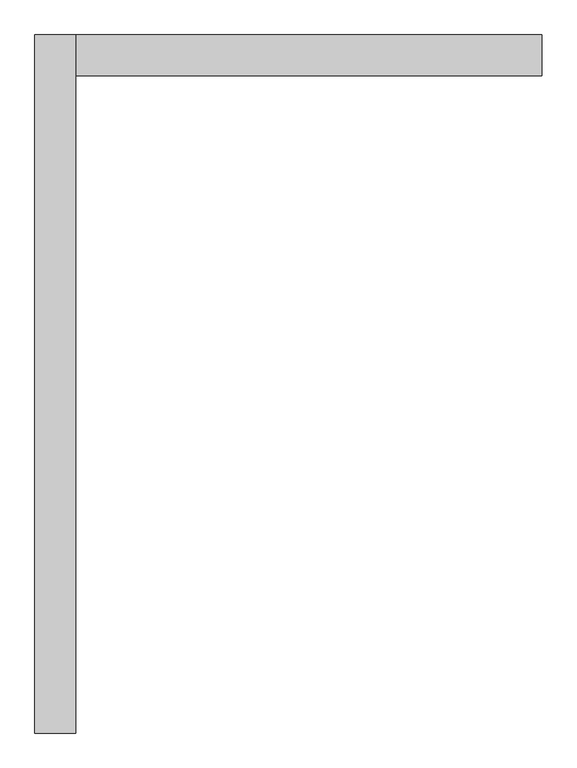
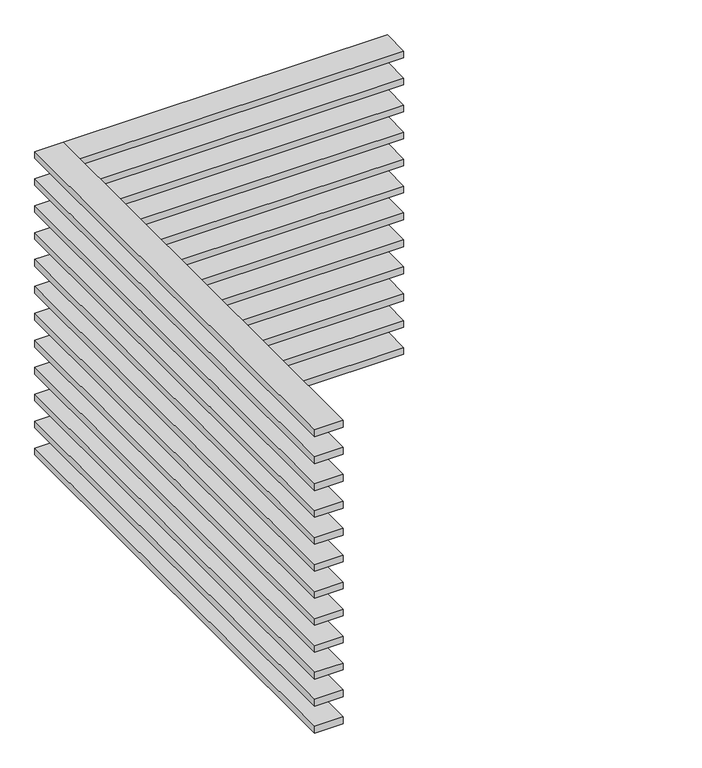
"""IFC4 building model written with IfcOpenShell, lengths in millimetres: proxy geometry, 水平ルーバー（Ｌ型） : ｈ50ｄ200＠200."""

from ifc_helpers import new_model, si_unit, frame, origin, place, context, project, spatial, polyline, outline, extrude, source, transform, mapped, element, save


def generic_models_9d1d942f(model_context):
    return source(origin(), model_context, "Body", "SweptSolid", [
        extrude(outline(polyline([(-100.0, -3405.0), (-300.0, -3405.0), (-300.0, 0.0), (-100.0, 0.0), (-100.0, -3405.0)])), frame((0.0, 0.0, 2175.0), z_axis=(0.0, 0.0, 1.0), x_axis=(1.0, 0.0, 0.0)), (0.0, 0.0, 1.0), 50.0),
        extrude(outline(polyline([(-100.0, -3405.0), (-300.0, -3405.0), (-300.0, 0.0), (-100.0, 0.0), (-100.0, -3405.0)])), frame((0.0, 0.0, 1975.0), z_axis=(0.0, 0.0, 1.0), x_axis=(1.0, 0.0, 0.0)), (0.0, 0.0, 1.0), 50.0),
        extrude(outline(polyline([(-100.0, -3405.0), (-300.0, -3405.0), (-300.0, 0.0), (-100.0, 0.0), (-100.0, -3405.0)])), frame((0.0, 0.0, 1775.0), z_axis=(0.0, 0.0, 1.0), x_axis=(1.0, 0.0, 0.0)), (0.0, 0.0, 1.0), 50.0),
        extrude(outline(polyline([(-100.0, -3405.0), (-300.0, -3405.0), (-300.0, 0.0), (-100.0, 0.0), (-100.0, -3405.0)])), frame((0.0, 0.0, 1575.0), z_axis=(0.0, 0.0, 1.0), x_axis=(1.0, 0.0, 0.0)), (0.0, 0.0, 1.0), 50.0),
        extrude(outline(polyline([(-100.0, -3405.0), (-300.0, -3405.0), (-300.0, 0.0), (-100.0, 0.0), (-100.0, -3405.0)])), frame((0.0, 0.0, 1375.0), z_axis=(0.0, 0.0, 1.0), x_axis=(1.0, 0.0, 0.0)), (0.0, 0.0, 1.0), 50.0),
        extrude(outline(polyline([(-100.0, -3405.0), (-300.0, -3405.0), (-300.0, 0.0), (-100.0, 0.0), (-100.0, -3405.0)])), frame((0.0, 0.0, 1175.0), z_axis=(0.0, 0.0, 1.0), x_axis=(1.0, 0.0, 0.0)), (0.0, 0.0, 1.0), 50.0),
        extrude(outline(polyline([(-100.0, -3405.0), (-300.0, -3405.0), (-300.0, 0.0), (-100.0, 0.0), (-100.0, -3405.0)])), frame((0.0, 0.0, 975.0), z_axis=(0.0, 0.0, 1.0), x_axis=(1.0, 0.0, 0.0)), (0.0, 0.0, 1.0), 50.0),
        extrude(outline(polyline([(-100.0, -3405.0), (-300.0, -3405.0), (-300.0, 0.0), (-100.0, 0.0), (-100.0, -3405.0)])), frame((0.0, 0.0, 775.0), z_axis=(0.0, 0.0, 1.0), x_axis=(1.0, 0.0, 0.0)), (0.0, 0.0, 1.0), 50.0),
        extrude(outline(polyline([(-100.0, -3405.0), (-300.0, -3405.0), (-300.0, 0.0), (-100.0, 0.0), (-100.0, -3405.0)])), frame((0.0, 0.0, 575.0), z_axis=(0.0, 0.0, 1.0), x_axis=(1.0, 0.0, 0.0)), (0.0, 0.0, 1.0), 50.0),
        extrude(outline(polyline([(-100.0, -3405.0), (-300.0, -3405.0), (-300.0, 0.0), (-100.0, 0.0), (-100.0, -3405.0)])), frame((0.0, 0.0, 375.0), z_axis=(0.0, 0.0, 1.0), x_axis=(1.0, 0.0, 0.0)), (0.0, 0.0, 1.0), 50.0),
        extrude(outline(polyline([(-100.0, -3405.0), (-300.0, -3405.0), (-300.0, 0.0), (-100.0, 0.0), (-100.0, -3405.0)])), frame((0.0, 0.0, 175.0), z_axis=(0.0, 0.0, 1.0), x_axis=(1.0, 0.0, 0.0)), (0.0, 0.0, 1.0), 50.0),
        extrude(outline(polyline([(-100.0, -3405.0), (-300.0, -3405.0), (-300.0, 0.0), (-100.0, 0.0), (-100.0, -3405.0)])), frame((0.0, 0.0, -25.0), z_axis=(0.0, 0.0, 1.0), x_axis=(1.0, 0.0, 0.0)), (0.0, 0.0, 1.0), 50.0),
        extrude(outline(polyline([(-100.0, -200.0), (-100.0, 0.0), (2175.0, 0.0), (2175.0, -200.0), (-100.0, -200.0)])), frame((0.0, 0.0, 2175.0), z_axis=(0.0, 0.0, 1.0), x_axis=(1.0, 0.0, 0.0)), (0.0, 0.0, 1.0), 50.0),
        extrude(outline(polyline([(-100.0, -200.0), (-100.0, 0.0), (2175.0, 0.0), (2175.0, -200.0), (-100.0, -200.0)])), frame((0.0, 0.0, 1975.0), z_axis=(0.0, 0.0, 1.0), x_axis=(1.0, 0.0, 0.0)), (0.0, 0.0, 1.0), 50.0),
        extrude(outline(polyline([(-100.0, -200.0), (-100.0, 0.0), (2175.0, 0.0), (2175.0, -200.0), (-100.0, -200.0)])), frame((0.0, 0.0, 1775.0), z_axis=(0.0, 0.0, 1.0), x_axis=(1.0, 0.0, 0.0)), (0.0, 0.0, 1.0), 50.0),
        extrude(outline(polyline([(-100.0, -200.0), (-100.0, 0.0), (2175.0, 0.0), (2175.0, -200.0), (-100.0, -200.0)])), frame((0.0, 0.0, 1575.0), z_axis=(0.0, 0.0, 1.0), x_axis=(1.0, 0.0, 0.0)), (0.0, 0.0, 1.0), 50.0),
        extrude(outline(polyline([(-100.0, -200.0), (-100.0, 0.0), (2175.0, 0.0), (2175.0, -200.0), (-100.0, -200.0)])), frame((0.0, 0.0, 1375.0), z_axis=(0.0, 0.0, 1.0), x_axis=(1.0, 0.0, 0.0)), (0.0, 0.0, 1.0), 50.0),
        extrude(outline(polyline([(-100.0, -200.0), (-100.0, 0.0), (2175.0, 0.0), (2175.0, -200.0), (-100.0, -200.0)])), frame((0.0, 0.0, 1175.0), z_axis=(0.0, 0.0, 1.0), x_axis=(1.0, 0.0, 0.0)), (0.0, 0.0, 1.0), 50.0),
        extrude(outline(polyline([(-100.0, -200.0), (-100.0, 0.0), (2175.0, 0.0), (2175.0, -200.0), (-100.0, -200.0)])), frame((0.0, 0.0, 975.0), z_axis=(0.0, 0.0, 1.0), x_axis=(1.0, 0.0, 0.0)), (0.0, 0.0, 1.0), 50.0),
        extrude(outline(polyline([(-100.0, -200.0), (-100.0, 0.0), (2175.0, 0.0), (2175.0, -200.0), (-100.0, -200.0)])), frame((0.0, 0.0, 775.0), z_axis=(0.0, 0.0, 1.0), x_axis=(1.0, 0.0, 0.0)), (0.0, 0.0, 1.0), 50.0),
        extrude(outline(polyline([(-100.0, -200.0), (-100.0, 0.0), (2175.0, 0.0), (2175.0, -200.0), (-100.0, -200.0)])), frame((0.0, 0.0, 575.0), z_axis=(0.0, 0.0, 1.0), x_axis=(1.0, 0.0, 0.0)), (0.0, 0.0, 1.0), 50.0),
        extrude(outline(polyline([(-100.0, -200.0), (-100.0, 0.0), (2175.0, 0.0), (2175.0, -200.0), (-100.0, -200.0)])), frame((0.0, 0.0, 375.0), z_axis=(0.0, 0.0, 1.0), x_axis=(1.0, 0.0, 0.0)), (0.0, 0.0, 1.0), 50.0),
        extrude(outline(polyline([(-100.0, -200.0), (-100.0, 0.0), (2175.0, 0.0), (2175.0, -200.0), (-100.0, -200.0)])), frame((0.0, 0.0, 175.0), z_axis=(0.0, 0.0, 1.0), x_axis=(1.0, 0.0, 0.0)), (0.0, 0.0, 1.0), 50.0),
        extrude(outline(polyline([(-100.0, -200.0), (-100.0, 0.0), (2175.0, 0.0), (2175.0, -200.0), (-100.0, -200.0)])), frame((0.0, 0.0, -25.0), z_axis=(0.0, 0.0, 1.0), x_axis=(1.0, 0.0, 0.0)), (0.0, 0.0, 1.0), 50.0),
    ])


if __name__ == "__main__":
    model = new_model("IFC4")
    model_context = context("Model", 3, world=origin())
    ifc_project = project(units=[si_unit("LENGTHUNIT", "METRE", prefix="MILLI")], contexts=[model_context])
    site = spatial("IfcSite", under=ifc_project)
    building = spatial("IfcBuilding", under=site)
    placement = place(None, origin())
    generic_models_shape = generic_models_9d1d942f(model_context)
    element("IfcBuildingElementProxy", 1, Name="水平ルーバー（Ｌ型） : ｈ50ｄ200＠200", ObjectType="水平ルーバー（Ｌ型） : ｈ50ｄ200＠200", at=placement, inside=building, context=model_context, shape_type="MappedRepresentation", body=[
        mapped(generic_models_shape, transform((0.0, 0.0, 0.0), x_axis=(1.0, 0.0, 0.0), y_axis=(0.0, 1.0, 0.0), z_axis=(0.0, 0.0, 1.0))),
    ])
    save(model, "model.ifc")
